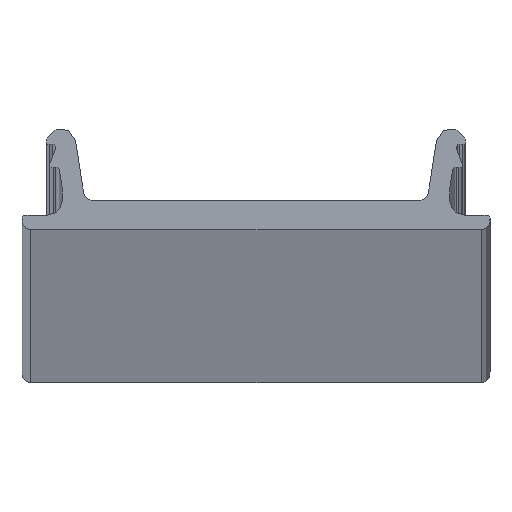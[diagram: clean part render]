
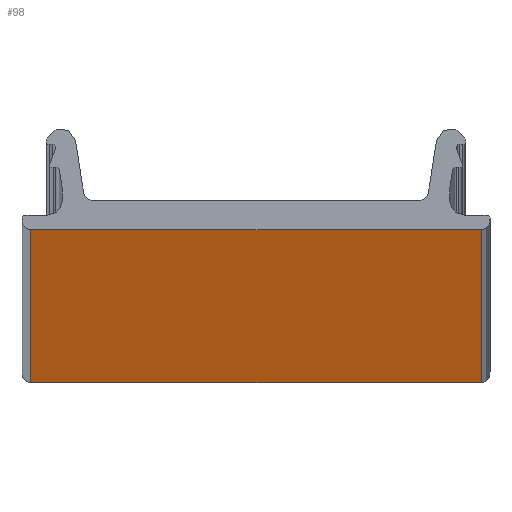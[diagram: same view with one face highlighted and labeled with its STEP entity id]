
A CAD part, top view. The second image highlights one B-rep face of the part: STEP entity #98.
In plain terms, the highlighted planar face has unit normal (0, -1, 0).
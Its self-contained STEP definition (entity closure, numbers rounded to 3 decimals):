
#98=ADVANCED_FACE('',(#160),#137,.F.);
#137=PLANE('',#817);
#160=FACE_OUTER_BOUND('',#200,.T.);
#200=EDGE_LOOP('',(#246,#247,#248,#249));
#246=ORIENTED_EDGE('',*,*,#549,.T.);
#247=ORIENTED_EDGE('',*,*,#550,.F.);
#248=ORIENTED_EDGE('',*,*,#551,.F.);
#249=ORIENTED_EDGE('',*,*,#547,.T.);
#470=VERTEX_POINT('',#1132);
#471=VERTEX_POINT('',#1134);
#472=VERTEX_POINT('',#1138);
#473=VERTEX_POINT('',#1140);
#547=EDGE_CURVE('',#471,#470,#660,.T.);
#549=EDGE_CURVE('',#470,#472,#661,.T.);
#550=EDGE_CURVE('',#473,#472,#662,.T.);
#551=EDGE_CURVE('',#471,#473,#663,.T.);
#660=LINE('',#1133,#738);
#661=LINE('',#1137,#739);
#662=LINE('',#1139,#740);
#663=LINE('',#1141,#741);
#738=VECTOR('',#899,1.);
#739=VECTOR('',#904,1.);
#740=VECTOR('',#905,1.);
#741=VECTOR('',#906,1.);
#817=AXIS2_PLACEMENT_3D('',#1142,#907,#908);
#899=DIRECTION('',(0.,0.,-1.));
#904=DIRECTION('',(1.,0.,0.));
#905=DIRECTION('',(0.,0.,-1.));
#906=DIRECTION('',(1.,0.,0.));
#907=DIRECTION('',(0.,1.,0.));
#908=DIRECTION('',(0.,0.,1.));
#1132=CARTESIAN_POINT('',(360.169,601.348,-3546.));
#1133=CARTESIAN_POINT('',(360.169,601.348,-546.));
#1134=CARTESIAN_POINT('',(360.169,601.348,-546.));
#1137=CARTESIAN_POINT('',(360.169,601.348,-3546.));
#1138=CARTESIAN_POINT('',(375.569,601.348,-3546.));
#1139=CARTESIAN_POINT('',(375.569,601.348,-546.));
#1140=CARTESIAN_POINT('',(375.569,601.348,-546.));
#1141=CARTESIAN_POINT('',(360.169,601.348,-546.));
#1142=CARTESIAN_POINT('',(360.169,601.348,-546.));
